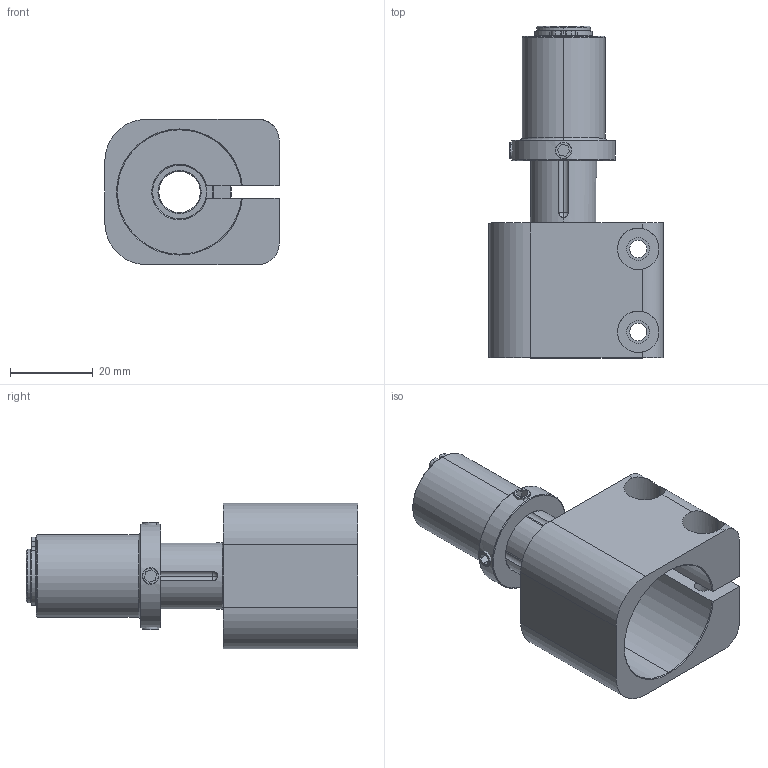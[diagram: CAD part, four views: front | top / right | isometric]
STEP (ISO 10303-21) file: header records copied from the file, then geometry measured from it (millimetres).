
FILE_DESCRIPTION (( 'STEP AP214' ), '1' );
FILE_NAME ('GSP20-30.STEP', '2019-11-12T08:57:45', ( '微软用户' ), ( '微软中国' ), 'SwSTEP 2.0', 'SolidWorks 2016', '' );
FILE_SCHEMA (( 'AUTOMOTIVE_DESIGN' ));
Length unit declared in the file: millimetre
Products named in the file (1): GSP20-30
Bounding box: 42 x 80 x 35 mm (x, y, z)
Volume: 29096.8 mm3; surface area: 20083.2 mm2
Topology: 9 solids, 9 shells, 191 faces, 483 edges, 307 vertices
Faces by surface type: cylinder 69, plane 63, cone 37, sphere 18, torus 2, bspline 2
Entity records: 8366 total; most frequent: CARTESIAN_POINT 1550, DIRECTION 981, ORIENTED_EDGE 936, EDGE_CURVE 468, AXIS2_PLACEMENT_3D 373, VERTEX_POINT 298, LINE 235, VECTOR 235
